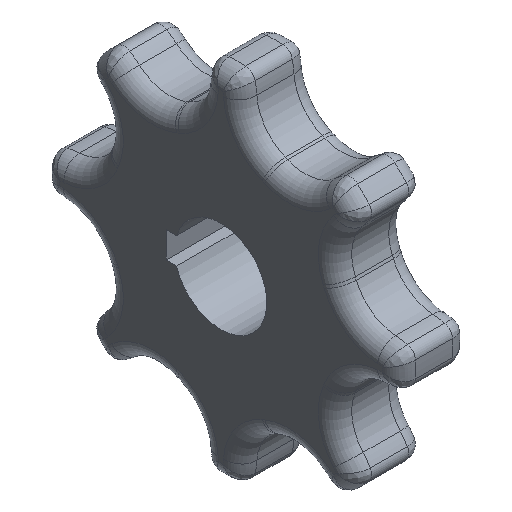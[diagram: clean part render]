
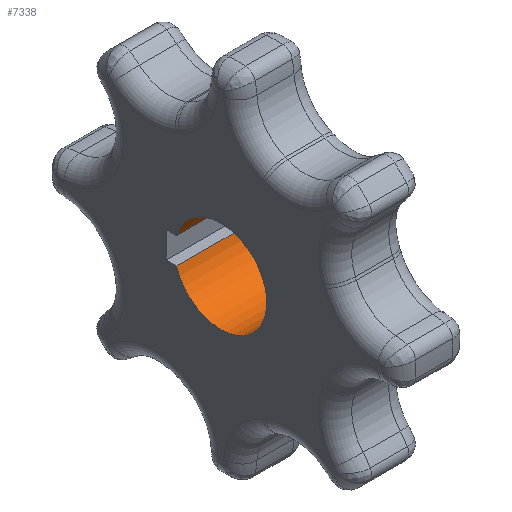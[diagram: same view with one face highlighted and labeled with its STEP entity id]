
A CAD part, isometric view. The second image highlights one B-rep face of the part: STEP entity #7338.
In plain terms, the highlighted cylindrical face has radius 17.501 mm (diameter 35.001 mm), a partial arc.
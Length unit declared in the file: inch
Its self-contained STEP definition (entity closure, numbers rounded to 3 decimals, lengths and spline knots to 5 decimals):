
#5=CARTESIAN_POINT('',(-0.5275,0.,0.));
#6=DIRECTION('',(1.,0.,0.));
#7=DIRECTION('',(0.,0.958,0.286));
#8=AXIS2_PLACEMENT_3D('',#5,#6,#7);
#191=CARTESIAN_POINT('',(0.5275,0.,0.));
#192=DIRECTION('',(1.,0.,0.));
#193=DIRECTION('',(0.,0.958,0.286));
#194=AXIS2_PLACEMENT_3D('',#191,#192,#193);
#2467=DIRECTION('',(-1.,0.,0.));
#2468=VECTOR('',#2467,1.055);
#2469=CARTESIAN_POINT('',(0.5275,0.66024,-0.197));
#2470=LINE('',#2469,#2468);
#2479=DIRECTION('',(-1.,0.,0.));
#2480=VECTOR('',#2479,1.055);
#2481=CARTESIAN_POINT('',(0.5275,0.66024,0.197));
#2482=LINE('',#2481,#2480);
#2483=CARTESIAN_POINT('',(-0.5275,0.66024,-0.197));
#2485=VERTEX_POINT('',#2483);
#2489=CARTESIAN_POINT('',(-0.5275,0.66024,0.197));
#2490=VERTEX_POINT('',#2489);
#2491=CARTESIAN_POINT('',(0.5275,0.66024,-0.197));
#2493=VERTEX_POINT('',#2491);
#2497=CARTESIAN_POINT('',(0.5275,0.66024,0.197));
#2498=VERTEX_POINT('',#2497);
#7327=CARTESIAN_POINT('',(0.642,0.,0.));
#7328=DIRECTION('',(1.,0.,0.));
#7329=DIRECTION('',(0.,0.,-1.));
#7330=AXIS2_PLACEMENT_3D('',#7327,#7328,#7329);
#7331=CYLINDRICAL_SURFACE('',#7330,0.689);
#7332=ORIENTED_EDGE('',*,*,#7296,.F.);
#7333=ORIENTED_EDGE('',*,*,#3404,.F.);
#7334=ORIENTED_EDGE('',*,*,#7320,.T.);
#7335=ORIENTED_EDGE('',*,*,#3036,.T.);
#7336=EDGE_LOOP('',(#7332,#7333,#7334,#7335));
#7337=FACE_OUTER_BOUND('',#7336,.F.);
#7338=ADVANCED_FACE('',(#7337),#7331,.F.);
#9=CIRCLE('',#8,0.689);
#195=CIRCLE('',#194,0.689);
#3036=EDGE_CURVE('',#2490,#2485,#9,.T.);
#3404=EDGE_CURVE('',#2498,#2493,#195,.T.);
#7296=EDGE_CURVE('',#2493,#2485,#2470,.T.);
#7320=EDGE_CURVE('',#2498,#2490,#2482,.T.);
